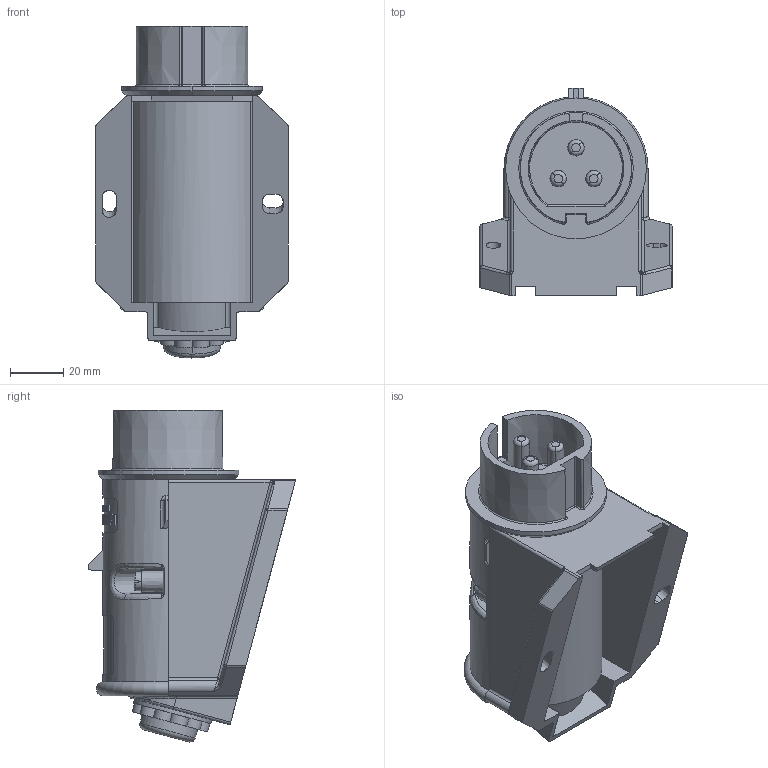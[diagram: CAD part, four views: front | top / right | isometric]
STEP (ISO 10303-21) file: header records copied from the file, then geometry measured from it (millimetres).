
FILE_DESCRIPTION((''),'2;1');
FILE_NAME('1116308_ASM_SW0001','2018-03-21T',('gisse'),('MENNEKES'),'PRO/ENGINEER BY PARAMETRIC TECHNOLOGY CORPORATION, 2015440','PRO/ENGINEER BY PARAMETRIC TECHNOLOGY CORPORATION, 2015440','');
FILE_SCHEMA(('AUTOMOTIVE_DESIGN { 1 0 10303 214 1 1 1 1 }'));
Length unit declared in the file: millimetre
Products named in the file (1): 1116308_ASM_SW0001
Bounding box: 72 x 77.62 x 124.35 mm (x, y, z)
Volume: 206499.1 mm3; surface area: 42915 mm2
Topology: 1 solids, 1 shells, 704 faces, 1861 edges, 1203 vertices
Faces by surface type: plane 349, cylinder 136, extrusion 106, bspline 66, cone 24, torus 17, sphere 6
Entity records: 34477 total; most frequent: CARTESIAN_POINT 9577, ORIENTED_EDGE 3714, DIRECTION 2847, EDGE_CURVE 1857, FILL_AREA_STYLE_COLOUR 1295, FILL_AREA_STYLE 1295, SURFACE_STYLE_FILL_AREA 1295, SURFACE_SIDE_STYLE 1295
